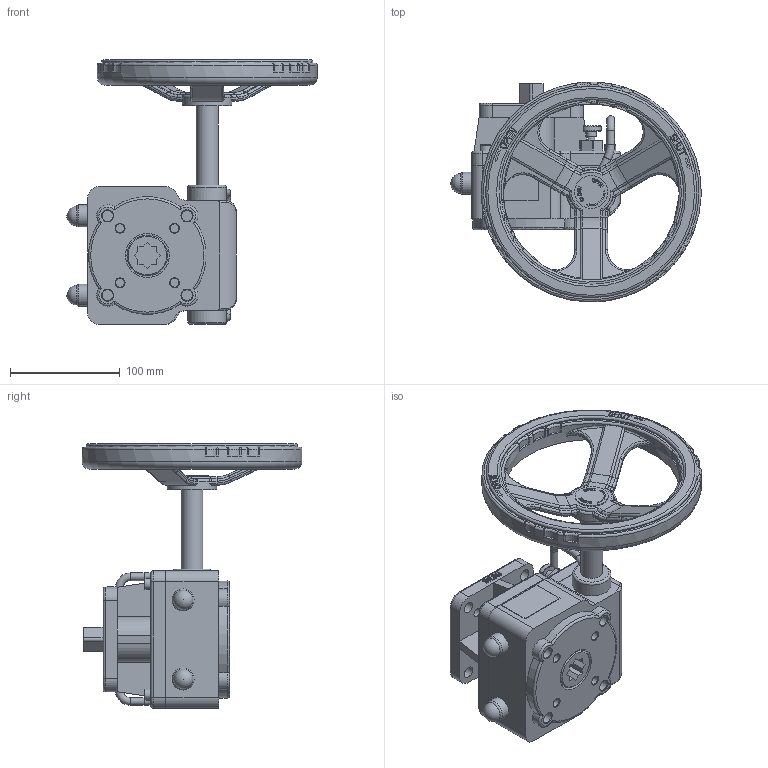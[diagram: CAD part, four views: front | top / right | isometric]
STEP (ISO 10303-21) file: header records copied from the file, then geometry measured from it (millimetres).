
FILE_DESCRIPTION(('STEP AP242'), '1');
FILE_NAME('MON2-450-T28-ISO 唒籦鍣 劌摠歑 DN.ru', '2026-04-21T19:22:19', ('R2D2'), (''), 'C3D Converter', 'C3D Toolkit', '');
FILE_SCHEMA(('AP242_MANAGED_MODEL_BASED_3D_ENGINEERING_MIM_LF { 1 0 10303 442 1 1 4 }'));
Length unit declared in the file: millimetre
Products named in the file (1): MON2-450-T28-ISO
Bounding box: 227.65 x 200 x 240.5 mm (x, y, z)
Volume: 1570005.1 mm3; surface area: 194175.5 mm2
Topology: 2 solids, 2 shells, 960 faces, 2431 edges, 1532 vertices
Faces by surface type: plane 410, cylinder 219, bspline 162, torus 109, sphere 38, cone 22
Full cylindrical faces by diameter (mm): 6 x2, 6.689 x1, 7 x5, 8 x4, 8.5 x4, 9.709 x1, 10 x8, 10.5 x4, 14.8 x1, 15 x1, 20 x3, 30 x1, 33 x1, 35 x3, 37 x1, 40 x1, 45 x1, 160 x1, 168 x1, 192 x1, 200 x1
Entity records: 60229 total; most frequent: CARTESIAN_POINT 30468, ORIENTED_EDGE 4664, DIRECTION 4196, EDGE_CURVE 2332, VERTEX_POINT 1524, AXIS2_PLACEMENT_3D 1504, LINE 1188, VECTOR 1188
